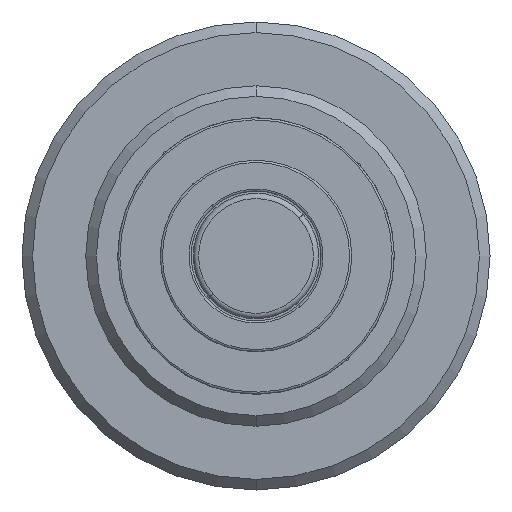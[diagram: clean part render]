
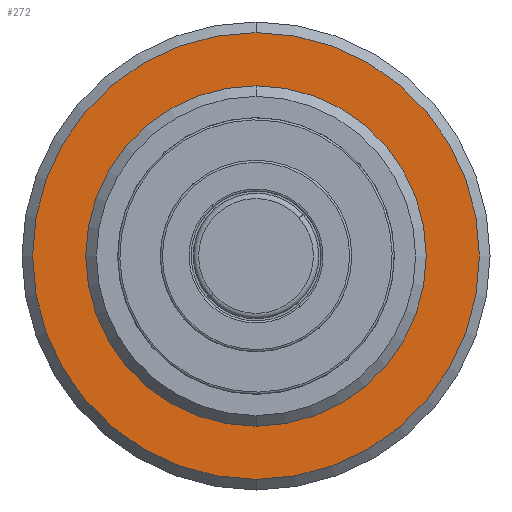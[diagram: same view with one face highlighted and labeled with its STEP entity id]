
A CAD part, front view. The second image highlights one B-rep face of the part: STEP entity #272.
In plain terms, the highlighted planar face has unit normal (0, -1, 0).
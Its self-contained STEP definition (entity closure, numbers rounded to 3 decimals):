
#73 = ORIENTED_EDGE ( 'NONE', *, *, #1683, .T. ) ;
#230 = ORIENTED_EDGE ( 'NONE', *, *, #1516, .F. ) ;
#272 = ADVANCED_FACE ( 'NONE', ( #2483, #1376 ), #1317, .F. ) ;
#335 = EDGE_LOOP ( 'NONE', ( #73, #1653 ) ) ;
#359 = DIRECTION ( 'NONE',  ( 0., -1., 0. ) ) ;
#403 = AXIS2_PLACEMENT_3D ( 'NONE', #1349, #1345, #1365 ) ;
#568 = CARTESIAN_POINT ( 'NONE',  ( 0., 23.8, 0. ) ) ;
#662 = VERTEX_POINT ( 'NONE', #1809 ) ;
#803 = DIRECTION ( 'NONE',  ( 0., -1., 0. ) ) ;
#865 = DIRECTION ( 'NONE',  ( 0., -1., 0. ) ) ;
#931 = CARTESIAN_POINT ( 'NONE',  ( 0., 23.8, -8. ) ) ;
#999 = VERTEX_POINT ( 'NONE', #2439 ) ;
#1029 = ORIENTED_EDGE ( 'NONE', *, *, #1301, .F. ) ;
#1081 = VERTEX_POINT ( 'NONE', #931 ) ;
#1097 = DIRECTION ( 'NONE',  ( 0., 0., 1. ) ) ;
#1180 = EDGE_CURVE ( 'NONE', #662, #999, #1247, .T. ) ;
#1227 = CARTESIAN_POINT ( 'NONE',  ( 0., 23.8, 8. ) ) ;
#1247 = CIRCLE ( 'NONE', #1853, 10.5 ) ;
#1294 = CIRCLE ( 'NONE', #2167, 10.5 ) ;
#1301 = EDGE_CURVE ( 'NONE', #1081, #1430, #1489, .T. ) ;
#1317 = PLANE ( 'NONE',  #403 ) ;
#1345 = DIRECTION ( 'NONE',  ( 0., 1., 0. ) ) ;
#1349 = CARTESIAN_POINT ( 'NONE',  ( -11., 23.8, 0. ) ) ;
#1360 = CARTESIAN_POINT ( 'NONE',  ( 0., 23.8, 0. ) ) ;
#1365 = DIRECTION ( 'NONE',  ( 0., 0., 1. ) ) ;
#1369 = CIRCLE ( 'NONE', #2087, 8. ) ;
#1376 = FACE_BOUND ( 'NONE', #2104, .T. ) ;
#1430 = VERTEX_POINT ( 'NONE', #1227 ) ;
#1489 = CIRCLE ( 'NONE', #1945, 8. ) ;
#1516 = EDGE_CURVE ( 'NONE', #1430, #1081, #1369, .T. ) ;
#1619 = DIRECTION ( 'NONE',  ( 0., 0., -1. ) ) ;
#1653 = ORIENTED_EDGE ( 'NONE', *, *, #1180, .T. ) ;
#1683 = EDGE_CURVE ( 'NONE', #999, #662, #1294, .T. ) ;
#1809 = CARTESIAN_POINT ( 'NONE',  ( 0., 23.8, -10.5 ) ) ;
#1853 = AXIS2_PLACEMENT_3D ( 'NONE', #2030, #2024, #2005 ) ;
#1945 = AXIS2_PLACEMENT_3D ( 'NONE', #1360, #803, #1619 ) ;
#2005 = DIRECTION ( 'NONE',  ( 0., 0., 1. ) ) ;
#2024 = DIRECTION ( 'NONE',  ( 0., -1., 0. ) ) ;
#2030 = CARTESIAN_POINT ( 'NONE',  ( 0., 23.8, 0. ) ) ;
#2033 = DIRECTION ( 'NONE',  ( 0., 0., -1. ) ) ;
#2087 = AXIS2_PLACEMENT_3D ( 'NONE', #568, #865, #2033 ) ;
#2104 = EDGE_LOOP ( 'NONE', ( #1029, #230 ) ) ;
#2121 = CARTESIAN_POINT ( 'NONE',  ( 0., 23.8, 0. ) ) ;
#2167 = AXIS2_PLACEMENT_3D ( 'NONE', #2121, #359, #1097 ) ;
#2439 = CARTESIAN_POINT ( 'NONE',  ( 0., 23.8, 10.5 ) ) ;
#2483 = FACE_OUTER_BOUND ( 'NONE', #335, .T. ) ;
